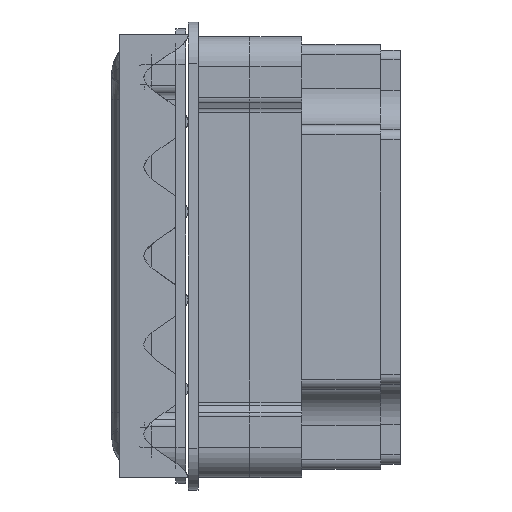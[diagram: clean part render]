
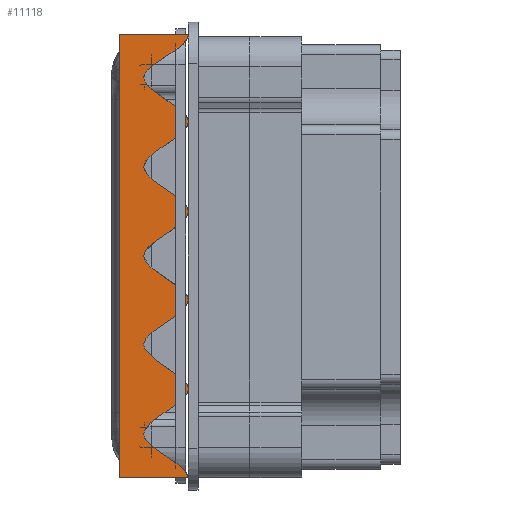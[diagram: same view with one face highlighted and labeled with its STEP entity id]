
A CAD part, left-side view. The second image highlights one B-rep face of the part: STEP entity #11118.
In plain terms, the highlighted planar face has unit normal (-1, 0, 0).
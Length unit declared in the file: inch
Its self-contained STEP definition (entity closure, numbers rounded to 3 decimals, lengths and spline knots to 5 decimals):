
#38 = DIRECTION ( 'NONE',  ( 0., 0., -1. ) ) ;
#101 = VECTOR ( 'NONE', #16663, 39.37008 ) ;
#700 = B_SPLINE_CURVE_WITH_KNOTS ( 'NONE', 3,
 ( #15781, #13543, #13422, #13388, #13331, #13323, #13307, #13300, #13274, #13254, #13242 ),
 .UNSPECIFIED., .F., .F.,
 ( 4, 1, 1, 1, 1, 1, 1, 1, 4 ),
 ( 0.19773, 0.24684, 0.29633, 0.34421, 0.39404, 0.44558, 0.49107, 0.54188, 0.58865 ),
 .UNSPECIFIED. ) ;
#1174 = EDGE_CURVE ( 'NONE', #13152, #6622, #14626, .T. ) ;
#1422 = B_SPLINE_CURVE_WITH_KNOTS ( 'NONE', 3,
 ( #2296, #4041, #2246, #2217, #2171, #2141, #2097, #2091, #2064, #2021 ),
 .UNSPECIFIED., .F., .F.,
 ( 4, 1, 1, 1, 1, 1, 1, 4 ),
 ( 0.59082, 0.64059, 0.68765, 0.73879, 0.7868, 0.83342, 0.88497, 0.98127 ),
 .UNSPECIFIED. ) ;
#1771 = VERTEX_POINT ( 'NONE', #15755 ) ;
#2021 = CARTESIAN_POINT ( 'NONE',  ( -10.25, -1.75, 5.6203 ) ) ;
#2064 = CARTESIAN_POINT ( 'NONE',  ( -10.25, -1.74578, 5.2116 ) ) ;
#2091 = CARTESIAN_POINT ( 'NONE',  ( -10.25, -0.05108, 4.71953 ) ) ;
#2097 = CARTESIAN_POINT ( 'NONE',  ( -10.25, -1.19394, 3.96427 ) ) ;
#2141 = CARTESIAN_POINT ( 'NONE',  ( -10.25, -2.01656, 3.40553 ) ) ;
#2171 = CARTESIAN_POINT ( 'NONE',  ( -10.25, -1.19434, 2.82048 ) ) ;
#2217 = CARTESIAN_POINT ( 'NONE',  ( -10.25, -0.35007, 2.27929 ) ) ;
#2246 = CARTESIAN_POINT ( 'NONE',  ( -10.25, -1.15553, 1.70363 ) ) ;
#2296 = CARTESIAN_POINT ( 'NONE',  ( -10.25, -1.75, 1.14428 ) ) ;
#4041 = CARTESIAN_POINT ( 'NONE',  ( -10.25, -1.73734, 1.33654 ) ) ;
#4711 = LINE ( 'NONE', #20904, #18897 ) ;
#5101 = VECTOR ( 'NONE', #5621, 39.37008 ) ;
#5147 = ORIENTED_EDGE ( 'NONE', *, *, #18265, .T. ) ;
#5545 = CARTESIAN_POINT ( 'NONE',  ( -10.25, -1.75, 7.78125 ) ) ;
#5621 = DIRECTION ( 'NONE',  ( 0., 0., -1. ) ) ;
#5679 = CARTESIAN_POINT ( 'NONE',  ( -10.25, 0., 7.78125 ) ) ;
#6030 = CARTESIAN_POINT ( 'NONE',  ( -10.25, -1.75, 1.14428 ) ) ;
#6484 = EDGE_CURVE ( 'NONE', #22884, #13862, #4711, .T. ) ;
#6622 = VERTEX_POINT ( 'NONE', #19689 ) ;
#6836 = EDGE_LOOP ( 'NONE', ( #18772, #13453, #16760, #20968, #11348, #14160, #18364, #17059, #5147 ) ) ;
#6991 = VERTEX_POINT ( 'NONE', #15924 ) ;
#7074 = EDGE_CURVE ( 'NONE', #1771, #10639, #700, .T. ) ;
#7421 = VERTEX_POINT ( 'NONE', #18189 ) ;
#7806 = DIRECTION ( 'NONE',  ( 0., 0., -1. ) ) ;
#8870 = CARTESIAN_POINT ( 'NONE',  ( -10.25, -1.75, 5.625 ) ) ;
#9510 = AXIS2_PLACEMENT_3D ( 'NONE', #13006, #12885, #12832 ) ;
#9583 = EDGE_CURVE ( 'NONE', #1771, #6622, #14021, .T. ) ;
#9830 = CARTESIAN_POINT ( 'NONE',  ( -10.25, -1.75, 1.11913 ) ) ;
#10129 = DIRECTION ( 'NONE',  ( 0., -1., 0. ) ) ;
#10200 = VECTOR ( 'NONE', #38, 39.37008 ) ;
#10639 = VERTEX_POINT ( 'NONE', #9830 ) ;
#10962 = CARTESIAN_POINT ( 'NONE',  ( -10.25, -1.75, 5.6203 ) ) ;
#11118 = ADVANCED_FACE ( 'NONE', ( #18755 ), #13346, .F. ) ;
#11348 = ORIENTED_EDGE ( 'NONE', *, *, #17222, .F. ) ;
#12832 = DIRECTION ( 'NONE',  ( 0., 0., -1. ) ) ;
#12885 = DIRECTION ( 'NONE',  ( 1., 0., 0. ) ) ;
#13006 = CARTESIAN_POINT ( 'NONE',  ( -10.25, 0., 7.78125 ) ) ;
#13152 = VERTEX_POINT ( 'NONE', #21142 ) ;
#13242 = CARTESIAN_POINT ( 'NONE',  ( -10.25, -1.75, 1.11913 ) ) ;
#13254 = CARTESIAN_POINT ( 'NONE',  ( -10.25, -1.73802, 0.93818 ) ) ;
#13274 = CARTESIAN_POINT ( 'NONE',  ( -10.25, -1.1775, 0.554 ) ) ;
#13300 = CARTESIAN_POINT ( 'NONE',  ( -10.25, -0.36082, 0.02675 ) ) ;
#13307 = CARTESIAN_POINT ( 'NONE',  ( -10.25, -1.14397, -0.55641 ) ) ;
#13323 = CARTESIAN_POINT ( 'NONE',  ( -10.25, -2.05173, -1.07881 ) ) ;
#13331 = CARTESIAN_POINT ( 'NONE',  ( -10.25, -1.18877, -1.70722 ) ) ;
#13346 = PLANE ( 'NONE',  #9510 ) ;
#13388 = CARTESIAN_POINT ( 'NONE',  ( -10.25, -0.36061, -2.21584 ) ) ;
#13422 = CARTESIAN_POINT ( 'NONE',  ( -10.25, -1.14469, -2.80709 ) ) ;
#13453 = ORIENTED_EDGE ( 'NONE', *, *, #1174, .T. ) ;
#13543 = CARTESIAN_POINT ( 'NONE',  ( -10.25, -1.73982, -3.17446 ) ) ;
#13557 = VECTOR ( 'NONE', #10129, 39.37008 ) ;
#13862 = VERTEX_POINT ( 'NONE', #10962 ) ;
#14021 = LINE ( 'NONE', #5545, #5101 ) ;
#14160 = ORIENTED_EDGE ( 'NONE', *, *, #14270, .T. ) ;
#14183 = CARTESIAN_POINT ( 'NONE',  ( -10.25, -1.75, 7.78125 ) ) ;
#14270 = EDGE_CURVE ( 'NONE', #14416, #13862, #1422, .T. ) ;
#14390 = LINE ( 'NONE', #14183, #10200 ) ;
#14416 = VERTEX_POINT ( 'NONE', #6030 ) ;
#14626 = B_SPLINE_CURVE_WITH_KNOTS ( 'NONE', 3,
 ( #22317, #21433, #22220, #22319, #22344, #22392, #22396 ),
 .UNSPECIFIED., .F., .F.,
 ( 4, 1, 1, 1, 4 ),
 ( 0., 0.04832, 0.09841, 0.14299, 0.19597 ),
 .UNSPECIFIED. ) ;
#14907 = CARTESIAN_POINT ( 'NONE',  ( -10.25, 0., -5.625 ) ) ;
#15755 = CARTESIAN_POINT ( 'NONE',  ( -10.25, -1.75, -3.36179 ) ) ;
#15781 = CARTESIAN_POINT ( 'NONE',  ( -10.25, -1.75, -3.36179 ) ) ;
#15816 = LINE ( 'NONE', #5679, #20493 ) ;
#15924 = CARTESIAN_POINT ( 'NONE',  ( -10.25, 0., -5.625 ) ) ;
#16638 = EDGE_CURVE ( 'NONE', #7421, #22884, #18806, .T. ) ;
#16663 = DIRECTION ( 'NONE',  ( 0., 1., 0. ) ) ;
#16760 = ORIENTED_EDGE ( 'NONE', *, *, #9583, .F. ) ;
#17059 = ORIENTED_EDGE ( 'NONE', *, *, #16638, .F. ) ;
#17222 = EDGE_CURVE ( 'NONE', #14416, #10639, #14390, .T. ) ;
#18189 = CARTESIAN_POINT ( 'NONE',  ( -10.25, 0., 5.625 ) ) ;
#18265 = EDGE_CURVE ( 'NONE', #7421, #6991, #15816, .T. ) ;
#18364 = ORIENTED_EDGE ( 'NONE', *, *, #6484, .F. ) ;
#18755 = FACE_OUTER_BOUND ( 'NONE', #6836, .T. ) ;
#18772 = ORIENTED_EDGE ( 'NONE', *, *, #22944, .F. ) ;
#18806 = LINE ( 'NONE', #20756, #13557 ) ;
#18897 = VECTOR ( 'NONE', #21171, 39.37008 ) ;
#19689 = CARTESIAN_POINT ( 'NONE',  ( -10.25, -1.75, -3.38197 ) ) ;
#20493 = VECTOR ( 'NONE', #7806, 39.37008 ) ;
#20756 = CARTESIAN_POINT ( 'NONE',  ( -10.25, 0., 5.625 ) ) ;
#20904 = CARTESIAN_POINT ( 'NONE',  ( -10.25, -1.75, 7.78125 ) ) ;
#20968 = ORIENTED_EDGE ( 'NONE', *, *, #7074, .T. ) ;
#21142 = CARTESIAN_POINT ( 'NONE',  ( -10.25, -1.75, -5.625 ) ) ;
#21171 = DIRECTION ( 'NONE',  ( 0., 0., -1. ) ) ;
#21433 = CARTESIAN_POINT ( 'NONE',  ( -10.25, -1.70465, -5.40131 ) ) ;
#22220 = CARTESIAN_POINT ( 'NONE',  ( -10.25, -1.19082, -5.08603 ) ) ;
#22317 = CARTESIAN_POINT ( 'NONE',  ( -10.25, -1.75, -5.625 ) ) ;
#22319 = CARTESIAN_POINT ( 'NONE',  ( -10.25, -0.36982, -4.53376 ) ) ;
#22344 = CARTESIAN_POINT ( 'NONE',  ( -10.25, -1.12546, -3.96616 ) ) ;
#22392 = CARTESIAN_POINT ( 'NONE',  ( -10.25, -1.73915, -3.5844 ) ) ;
#22396 = CARTESIAN_POINT ( 'NONE',  ( -10.25, -1.75, -3.38197 ) ) ;
#22511 = LINE ( 'NONE', #14907, #101 ) ;
#22884 = VERTEX_POINT ( 'NONE', #8870 ) ;
#22944 = EDGE_CURVE ( 'NONE', #13152, #6991, #22511, .T. ) ;
